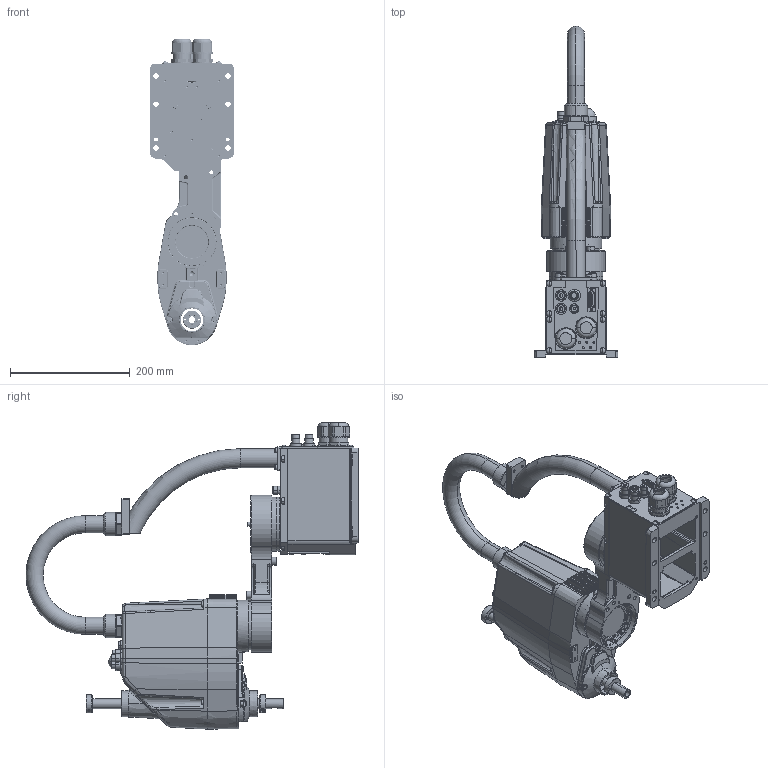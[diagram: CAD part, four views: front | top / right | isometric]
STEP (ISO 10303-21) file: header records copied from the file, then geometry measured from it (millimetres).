
FILE_DESCRIPTION((''),'2;1');
FILE_NAME('G3-301S-R_ASM','2009-01-23T',('0179539'),(''),'PRO/ENGINEER BY PARAMETRIC TECHNOLOGY CORPORATION, 2006510','PRO/ENGINEER BY PARAMETRIC TECHNOLOGY CORPORATION, 2006510','');
FILE_SCHEMA(('AUTOMOTIVE_DESIGN_CC2 { 1 2 10303 214 -1 1 5 2 }'));
Length unit declared in the file: millimetre
Products named in the file (6): BASE_S; J1_300-SR; J2; SHAFT_S; CABLE_S-300; G3-301S-R_ASM
Assembly tree (5 placements, depth 2):
  G3-301S-R_ASM
    BASE_S
    J1_300-SR
    J2
    SHAFT_S
    CABLE_S-300
Bounding box: 140 x 554.45 x 511.35 mm (x, y, z)
Volume: 2277769.4 mm3; surface area: 870921.7 mm2
Topology: 5 solids, 10 shells, 3506 faces, 8395 edges, 5134 vertices
Faces by surface type: cylinder 1389, plane 1167, cone 325, bspline 315, torus 180, sphere 130
Entity records: 149316 total; most frequent: CARTESIAN_POINT 43820, DIRECTION 17118, ORIENTED_EDGE 16590, EDGE_CURVE 8295, AXIS2_PLACEMENT_3D 6671, VERTEX_POINT 5134, EDGE_LOOP 4111, VECTOR 3776
